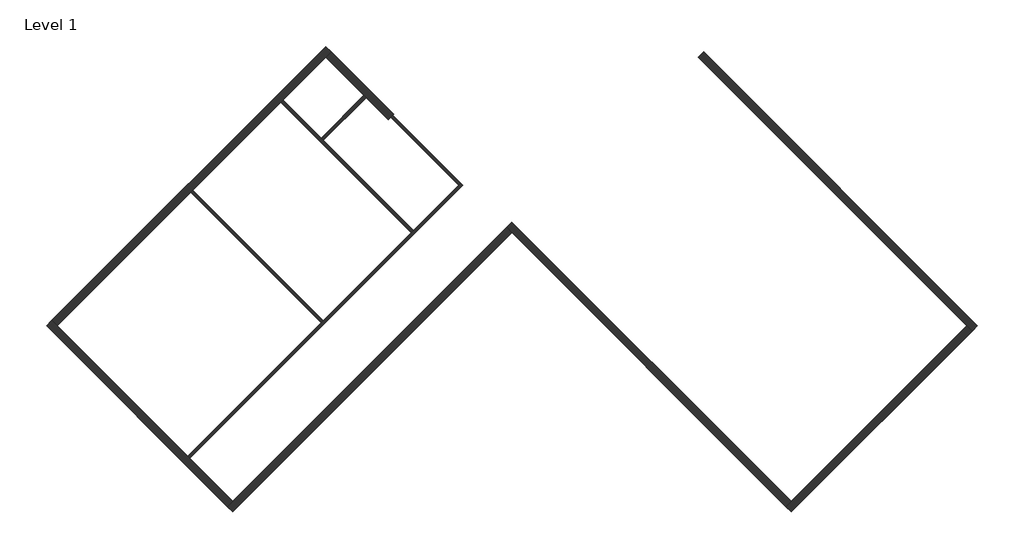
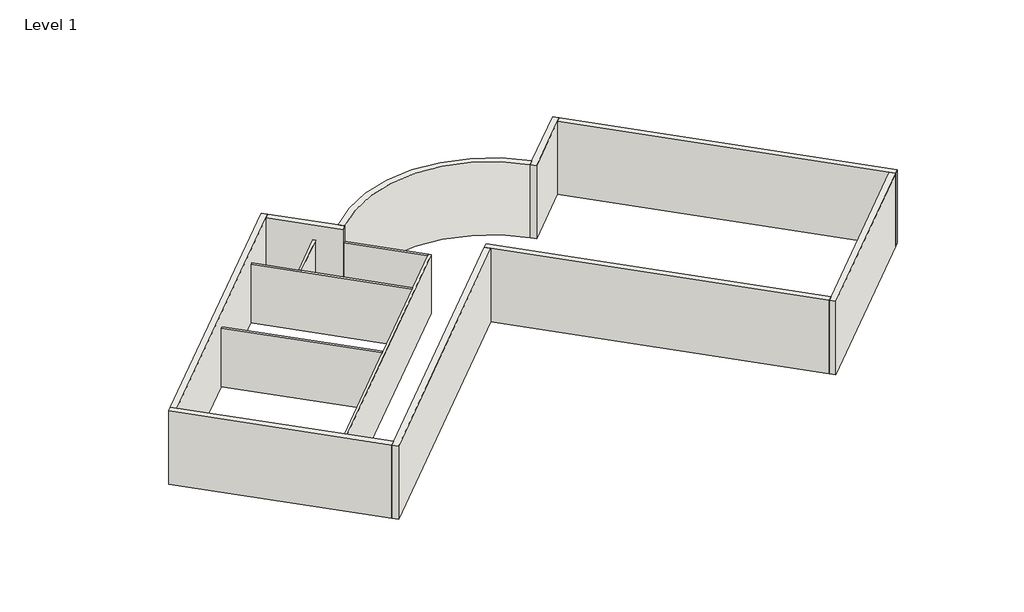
# One storey: 14 walls.
"""IFC4 building model written with IfcOpenShell, lengths in millimetres."""

import ifcopenshell
import ifcopenshell.guid

model = None  # the IFC model being written
_history = None  # IfcOwnerHistory: only IFC2X3 demands one
_inside = {}  # id of a spatial element -> (the spatial element, [elements in it])
_under = {}  # id of a project, library or spatial element -> (it, [spatial elements below it])
_declared = {}  # id of a project -> (the project, [libraries it declares])
_typed = {}  # id of a type object -> (the type object, [elements of that type])
_made_of = {}  # id of a material, layer set ... -> (it, [elements and type objects made of it])


def new_model(schema):
    """Start an empty IFC model of exactly this schema.

    Asked for "IFC4X3", IfcOpenShell would pick the latest addendum, in which some entities
    have other attributes; the version numbers below select the first issue.
    IFC2X3 requires an IfcOwnerHistory on every rooted entity: one is made here for all.
    """
    global model, _history
    if schema == "IFC4X3":
        model = ifcopenshell.file(schema_version=(4, 3, 0, 0))
    else:
        model = ifcopenshell.file(schema=schema)
    _inside.clear()
    _under.clear()
    _declared.clear()
    _typed.clear()
    _made_of.clear()
    _history = None
    if model.schema == "IFC2X3":
        org = make("IfcOrganization", Name="unknown")
        user = make(
            "IfcPersonAndOrganization",
            ThePerson=make("IfcPerson", FamilyName="unknown"),
            TheOrganization=org,
        )
        app = make(
            "IfcApplication",
            ApplicationDeveloper=org,
            Version="unknown",
            ApplicationFullName="unknown",
            ApplicationIdentifier="unknown",
        )
        _history = make(
            "IfcOwnerHistory",
            OwningUser=user,
            OwningApplication=app,
            ChangeAction="ADDED",
            CreationDate=0,
        )
    return model


def make(cls, **values):
    """One entity of the class cls with the attributes given. An attribute that is None is left unset."""
    return model.create_entity(
        cls, **{name: value for name, value in values.items() if value is not None}
    )


def rooted(cls, **values):
    """An entity with a GlobalId (a new one), such as an element, a storey or a relation."""
    return make(cls, GlobalId=ifcopenshell.guid.new(), OwnerHistory=_history, **values)


def si_unit(unit_type, name, prefix=None):
    """IfcSIUnit, for example si_unit("LENGTHUNIT", "METRE", prefix="MILLI")."""
    return make("IfcSIUnit", UnitType=unit_type, Prefix=prefix, Name=name)


def assignment(units):
    """IfcUnitAssignment: the units of a project."""
    return None if units is None else make("IfcUnitAssignment", Units=units)


def point(xyz):
    """IfcCartesianPoint."""
    return None if xyz is None else make("IfcCartesianPoint", Coordinates=xyz)


def direction(xyz):
    """IfcDirection."""
    return None if xyz is None else make("IfcDirection", DirectionRatios=xyz)


def frame(location, z_axis=None, x_axis=None):
    """IfcAxis2Placement3D, a coordinate frame: its origin and axes. An axis left out is left unset."""
    return make(
        "IfcAxis2Placement3D",
        Location=point(location),
        Axis=direction(z_axis),
        RefDirection=direction(x_axis),
    )


def frame_2d(location, x_axis=None):
    """IfcAxis2Placement2D, a coordinate frame in the plane: its origin and x axis."""
    return make(
        "IfcAxis2Placement2D", Location=point(location), RefDirection=direction(x_axis)
    )


def origin():
    """The frame at (0, 0, 0) with its axes left unset."""
    return frame((0.0, 0.0, 0.0))


def origin_with_axes():
    """The frame at (0, 0, 0) with the z axis (0, 0, 1) and the x axis (1, 0, 0) written out."""
    return frame((0.0, 0.0, 0.0), z_axis=(0.0, 0.0, 1.0), x_axis=(1.0, 0.0, 0.0))


def place(relative_to, where):
    """IfcLocalPlacement: puts the frame where relative to a parent placement (None: the world)."""
    return make(
        "IfcLocalPlacement", PlacementRelTo=relative_to, RelativePlacement=where
    )


def context(
    kind, dimensions, precision=None, world=None, true_north=None, identifier=None
):
    """IfcGeometricRepresentationContext, for example the 3D "Model" context."""
    return make(
        "IfcGeometricRepresentationContext",
        ContextIdentifier=identifier,
        ContextType=kind,
        CoordinateSpaceDimension=dimensions,
        Precision=precision,
        WorldCoordinateSystem=world,
        TrueNorth=true_north,
    )


def project(units=None, contexts=None):
    """IfcProject with its units and contexts."""
    return rooted(
        "IfcProject",
        Name="project",
        RepresentationContexts=contexts,
        UnitsInContext=assignment(units),
    )


def spatial(cls, under=None, at=None, **own):
    """A site, building, storey or space (cls), placed at a placement, below another one or the project."""
    s = rooted(cls, ObjectPlacement=at, **own)
    if under is not None:
        _under.setdefault(under.id(), (under, []))[1].append(s)
    return s


def polyline(points):
    """IfcPolyline through the points."""
    return make("IfcPolyline", Points=[point(p) for p in points])


def circle_curve(where, radius):
    """IfcCircle in the frame where."""
    return make("IfcCircle", Position=where, Radius=radius)


def trimmed(basis, trim1, trim2, sense, master):
    """IfcTrimmedCurve: the piece of a basis curve between two trims."""
    return make(
        "IfcTrimmedCurve",
        BasisCurve=basis,
        Trim1=trim1,
        Trim2=trim2,
        SenseAgreement=sense,
        MasterRepresentation=master,
    )


def segment(curve, same_sense, transition):
    """IfcCompositeCurveSegment."""
    return make(
        "IfcCompositeCurveSegment",
        Transition=transition,
        SameSense=same_sense,
        ParentCurve=curve,
    )


def composite_curve(segments, self_intersect=None):
    """IfcCompositeCurve: segments joined end to end."""
    return make("IfcCompositeCurve", Segments=segments, SelfIntersect=self_intersect)


def outline(outer, holes=None, kind="AREA"):
    """IfcArbitraryClosedProfileDef: a profile drawn as a closed curve; with holes, ...WithVoids."""
    if holes is None:
        return make("IfcArbitraryClosedProfileDef", ProfileType=kind, OuterCurve=outer)
    return make(
        "IfcArbitraryProfileDefWithVoids",
        ProfileType=kind,
        OuterCurve=outer,
        InnerCurves=holes,
    )


def extrude(swept, where, along, depth):
    """IfcExtrudedAreaSolid: the profile swept, set in the frame where, extruded along a direction by depth."""
    return make(
        "IfcExtrudedAreaSolid",
        SweptArea=swept,
        Position=where,
        ExtrudedDirection=direction(along),
        Depth=depth,
    )


def faces_of(points, faces, orient=None, outer=None):
    """IfcFace entities. A face is a list of loops; a loop is a list of indices into points, from 0.

    orient and outer hold one flag for each loop. By default every Orientation is true, the
    first loop of a face is its IfcFaceOuterBound and the others are IfcFaceBound.
    """
    made = []
    for i, loops in enumerate(faces):
        bounds = []
        for j, loop in enumerate(loops):
            is_outer = j == 0 if outer is None else outer[i][j]
            bounds.append(
                make(
                    "IfcFaceOuterBound" if is_outer else "IfcFaceBound",
                    Bound=make("IfcPolyLoop", Polygon=[points[k] for k in loop]),
                    Orientation=True if orient is None else orient[i][j],
                )
            )
        made.append(make("IfcFace", Bounds=bounds))
    return made


def faceted_brep(points, faces, orient=None, outer=None, voids=None):
    """IfcFacetedBrep: a solid bounded by flat faces; with voids (closed shells), ...WithVoids."""
    shared = [point(p) for p in points]
    hull = make("IfcClosedShell", CfsFaces=faces_of(shared, faces, orient, outer))
    if voids is None:
        return make("IfcFacetedBrep", Outer=hull)
    return make(
        "IfcFacetedBrepWithVoids",
        Outer=hull,
        Voids=[
            make(cls, CfsFaces=faces_of(shared, fs, o, b)) for cls, fs, o, b in voids
        ],
    )


def shape(context_of_items, identifier, shape_type, items):
    """IfcShapeRepresentation: the items that make up one representation, for example the "Body"."""
    return make(
        "IfcShapeRepresentation",
        ContextOfItems=context_of_items,
        RepresentationIdentifier=identifier,
        RepresentationType=shape_type,
        Items=items,
    )


def made_of(thing, what):
    """Note that an element or type object is made of a material, layer set ...; save() writes the relation."""
    if what is not None:
        _made_of.setdefault(what.id(), (what, []))[1].append(thing)
    return thing


def element(
    cls,
    number,
    at=None,
    inside=None,
    cuts=None,
    type_object=None,
    material=None,
    context=None,
    identifier="Body",
    shape_type=None,
    held_by="IfcProductDefinitionShape",
    body=None,
    shapes=None,
    **own,
):
    """One element of the class cls, such as IfcWall. Its Tag is "e" and its number.

    at: its placement. inside: the storey or other place that contains it. cuts: it is an
    opening in that element (IfcRelVoidsElement). A single representation is given by context,
    identifier, shape_type and body (its items); several are given by shapes. held_by: the class
    of the entity that holds the representations. save() writes the other relations.
    """
    e = rooted(cls, Tag="e%d" % number, ObjectPlacement=at, **own)
    if body is not None:
        shapes = [shape(context, identifier, shape_type, body)]
    if shapes is not None:
        e.Representation = make(held_by, Representations=shapes)
    if inside is not None:
        _inside.setdefault(inside.id(), (inside, []))[1].append(e)
    if cuts is not None:
        rooted(
            "IfcRelVoidsElement", RelatingBuildingElement=cuts, RelatedOpeningElement=e
        )
    if type_object is not None:
        _typed.setdefault(type_object.id(), (type_object, []))[1].append(e)
    return made_of(e, material)


def aggregate(whole, parts):
    """IfcRelAggregates: a whole, such as a stair, and the parts it consists of."""
    return rooted("IfcRelAggregates", RelatingObject=whole, RelatedObjects=parts)


def save(model, path):
    """Write the relations noted so far, then the file.

    IfcRelAggregates (storeys below a building ...), IfcRelContainedInSpatialStructure (elements
    in a storey), IfcRelDefinesByType, IfcRelAssociatesMaterial and IfcRelDeclares: one each for
    every whole, place, type object, material and project.
    """
    for whole, parts in _under.values():
        aggregate(whole, parts)
    for where, things in _inside.values():
        rooted(
            "IfcRelContainedInSpatialStructure",
            RelatedElements=things,
            RelatingStructure=where,
        )
    for kind, things in _typed.values():
        rooted("IfcRelDefinesByType", RelatedObjects=things, RelatingType=kind)
    for what, things in _made_of.values():
        rooted("IfcRelAssociatesMaterial", RelatedObjects=things, RelatingMaterial=what)
    for by, libraries in _declared.values():
        rooted("IfcRelDeclares", RelatingContext=by, RelatedDefinitions=libraries)
    model.write(path)


def plane_surface(at):
    """IfcPlane: the flat surface through the origin of the frame at, square to its z axis."""
    return make("IfcPlane", Position=at)


def revolved_surface(curve, axis_point, axis_direction):
    """IfcSurfaceOfRevolution: the curve turned about the line through axis_point along axis_direction."""
    return make(
        "IfcSurfaceOfRevolution",
        SweptCurve=make("IfcArbitraryOpenProfileDef", ProfileType="CURVE", Curve=curve),
        AxisPosition=make("IfcAxis1Placement", Location=point(axis_point), Axis=direction(axis_direction)),
    )


def advanced_brep(points, edges, surfaces, faces):
    """IfcAdvancedBrep: a solid bounded by faces that lie on surfaces and meet in shared edges.

    An edge is (start, end): straight between two places in points (the first is 0);
    or (start, end, curve); or (start, end, curve, False) where it runs against its curve.
    A face is (place in surfaces, loops), or (place, loops, False) where it looks against
    its surface's normal. A loop lists edges by number (the first is 1), with a minus sign
    where the edge is run from its end to its start. The first loop is the outer one.
    """
    corners = [point(p) for p in points]
    vertices = [make("IfcVertexPoint", VertexGeometry=c) for c in corners]
    made = []
    for start, end, *more in edges:
        made.append(
            make(
                "IfcEdgeCurve",
                EdgeStart=vertices[start],
                EdgeEnd=vertices[end],
                EdgeGeometry=more[0] if more else make("IfcPolyline", Points=[corners[start], corners[end]]),
                SameSense=more[1] if len(more) > 1 else True,
            )
        )
    hull = []
    for where, loops, *sense in faces:
        bounds = []
        for j, loop in enumerate(loops):
            ring = [make("IfcOrientedEdge", EdgeElement=made[abs(k) - 1], Orientation=k > 0) for k in loop]
            bounds.append(
                make(
                    "IfcFaceOuterBound" if j == 0 else "IfcFaceBound",
                    Bound=make("IfcEdgeLoop", EdgeList=ring),
                    Orientation=True,
                )
            )
        hull.append(make("IfcAdvancedFace", Bounds=bounds, FaceSurface=surfaces[where], SameSense=sense[0] if sense else True))
    return make("IfcAdvancedBrep", Outer=make("IfcClosedShell", CfsFaces=hull))


model = new_model("IFC4")

# Units and contexts
model_context = context("Model", 3, world=origin())
ifc_project = project(units=[si_unit("LENGTHUNIT", "METRE", prefix="MILLI")], contexts=[model_context])

# Site, building, storey
site = spatial("IfcSite", under=ifc_project)
building = spatial("IfcBuilding", under=site)
storey = spatial("IfcBuildingStorey", under=building, Name="Level 1", Elevation=0.0)

# Walls
placement = place(None, origin())
element("IfcWall", 1, ObjectType="Exterior - Brick on Mtl. Stud", at=placement, inside=storey, context=model_context, shape_type="AdvancedBrep", body=[
    advanced_brep(
    [(-19005.025248, 7088.73177, 0.0), (-16105.9530225, 9987.8039956, 0.0), (-15858.4656491, 10235.291369, 0.0), (-15858.4656491, 10235.291369, 4572.0), (-16105.9530225, 9987.8039956, 4572.0), (-19005.025248, 7088.73177, 4572.0), (-19246.9213445, 7341.8104204, 0.0), (-19246.9213445, 7341.8104204, 4572.0), (-18999.4339711, 7589.2977938, 4572.0), (-16105.9530225, 10482.7787424, 4572.0), (-16105.9530225, 10482.7787424, 0.0), (-18999.4339711, 7589.2977938, 0.0)],
    [
        (0, 1),
        (1, 2),
        (2, 3),
        (3, 4),
        (4, 5),
        (5, 0),
        (6, 7),
        (7, 8),
        (8, 9),
        (9, 10),
        (10, 11),
        (11, 6),
        (0, 6, circle_curve(frame((-24726.9988987, 1861.7328662, 0.0), z_axis=(0.0, 0.0, 1.0), x_axis=(1.0, 0.0, 0.0)), 7750.0)),
        (10, 2),
        (3, 9),
        (7, 5, circle_curve(frame((-24726.9988987, 1861.7328662, 4572.0), z_axis=(0.0, 0.0, -1.0), x_axis=(1.0, 0.0, 0.0)), 7750.0)),
    ],
    [
        plane_surface(frame((-18875.6902844, 7218.0667337, 0.0), z_axis=(0.707106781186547, -0.707106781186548, 0.0), x_axis=(0.707106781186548, 0.707106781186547, 0.0))),
        plane_surface(frame((-19123.1776578, 7465.5541071, 0.0), z_axis=(-0.707106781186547, 0.707106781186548, 0.0), x_axis=(-0.707106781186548, -0.707106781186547, 0.0))),
        plane_surface(frame((-18877.0567062, 7216.7003119, 0.0), z_axis=(0.0, 0.0, -1.0000000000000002), x_axis=(-0.7071067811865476, 0.7071067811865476, 0.0))),
        plane_surface(frame((-15982.2093358, 10111.5476823, 4572.0), z_axis=(0.0, 0.0, 1.0000000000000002), x_axis=(-0.7071067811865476, 0.7071067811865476, 0.0))),
        plane_surface(frame((-16105.9530225, 10482.7787424, 0.0), z_axis=(0.7071067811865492, 0.7071067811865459, 0.0), x_axis=(-0.7071067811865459, 0.7071067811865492, 0.0))),
        revolved_surface(polyline([(-16976.9988987, 1861.7328662, 0.0), (-16976.9988987, 1861.7328662, 4572.0)]), (-24726.9988987, 1861.7328662, 0.0), (0.0, 0.0, -1.0)),
    ],
    [
        (0, [[1, 2, 3, 4, 5, 6]]),
        (1, [[7, 8, 9, 10, 11, 12]]),
        (2, [[-2, -1, 13, -12, -11, 14]]),
        (3, [[-5, -4, 15, -9, -8, 16]]),
        (4, [[-3, -14, -10, -15]]),
        (5, [[-6, -16, -7, -13]]),
    ],
),
])
element("IfcWall", 2, ObjectType="Exterior - Brick on Mtl. Stud", at=placement, inside=storey, context=model_context, shape_type="Brep", body=[
    faceted_brep([(-16105.9530225, 9987.8039956, 0.0), (-3669.358955, -2448.7900719, 0.0), (-3421.8715816, -2696.2774453, 0.0), (-3421.8715816, -2696.2774453, 4572.0), (-3669.358955, -2448.7900719, 4572.0), (-16105.9530225, 9987.8039956, 4572.0), (-15858.4656491, 10235.291369, 0.0), (-15858.4656491, 10235.291369, 4572.0), (-3174.3842082, -2448.7900719, 4572.0), (-3174.3842082, -2448.7900719, 0.0)], [[[0, 1, 2, 3, 4, 5]], [[6, 7, 8, 9]], [[2, 1, 0, 6, 9]], [[5, 4, 3, 8, 7]], [[0, 5, 7, 6]], [[3, 2, 9, 8]]]),
])
element("IfcWall", 3, ObjectType="Exterior - Brick on Mtl. Stud", at=placement, inside=storey, context=model_context, shape_type="Brep", body=[
    faceted_brep([(-3669.358955, -2448.7900719, 0.0), (-11795.4300844, -10574.8612013, 0.0), (-12042.9174578, -10822.3485747, 0.0), (-12042.9174578, -10822.3485747, 4572.0), (-11795.4300844, -10574.8612013, 4572.0), (-3669.358955, -2448.7900719, 4572.0), (-3421.8715816, -2696.2774453, 0.0), (-3421.8715816, -2696.2774453, 4572.0), (-11795.4300844, -11069.8359482, 4572.0), (-11795.4300844, -11069.8359482, 0.0)], [[[0, 1, 2, 3, 4, 5]], [[6, 7, 8, 9]], [[2, 1, 0, 6, 9]], [[5, 4, 3, 8, 7]], [[0, 5, 7, 6]], [[3, 2, 9, 8]]]),
])
element("IfcWall", 4, ObjectType="Exterior - Brick on Mtl. Stud", at=placement, inside=storey, context=model_context, shape_type="Brep", body=[
    faceted_brep([(-11795.4300844, -10574.8612013, 0.0), (-24726.9988987, 2356.707613, 0.0), (-24726.9988987, 2356.707613, 4572.0), (-11795.4300844, -10574.8612013, 4572.0), (-12042.9174578, -10822.3485747, 0.0), (-12042.9174578, -10822.3485747, 4572.0), (-24726.9988987, 1861.7328662, 4572.0), (-24974.4862721, 2109.2202396, 4572.0), (-24974.4862721, 2109.2202396, 0.0), (-24726.9988987, 1861.7328662, 0.0)], [[[0, 1, 2, 3]], [[4, 5, 6, 7, 8, 9]], [[1, 0, 4, 9, 8]], [[3, 2, 7, 6, 5]], [[0, 3, 5, 4]], [[2, 1, 8, 7]]]),
])
element("IfcWall", 5, ObjectType="Exterior - Brick on Mtl. Stud", at=placement, inside=storey, context=model_context, shape_type="Brep", body=[
    faceted_brep([(-24974.4862721, 2109.2202396, 0.0), (-37658.5677131, -10574.8612013, 0.0), (-37906.0550865, -10822.3485747, 0.0), (-37906.0550865, -10822.3485747, 4572.0), (-37658.5677131, -10574.8612013, 4572.0), (-24974.4862721, 2109.2202396, 4572.0), (-24726.9988987, 1861.7328662, 0.0), (-24726.9988987, 1861.7328662, 4572.0), (-37658.5677131, -11069.8359482, 4572.0), (-37658.5677131, -11069.8359482, 0.0)], [[[0, 1, 2, 3, 4, 5]], [[6, 7, 8, 9]], [[2, 1, 0, 6, 9]], [[5, 4, 3, 8, 7]], [[0, 5, 7, 6]], [[3, 2, 9, 8]]]),
])
element("IfcWall", 6, ObjectType="Exterior - Brick on Mtl. Stud", at=placement, inside=storey, context=model_context, shape_type="Brep", body=[
    faceted_brep([(-37658.5677131, -10574.8612013, 0.0), (-39641.1183508, -8592.3105636, 0.0), (-39739.05264, -8494.3762744, 0.0), (-45784.6388425, -2448.7900719, 0.0), (-46032.1262159, -2201.3026985, 0.0), (-46032.1262159, -2201.3026985, 4572.0), (-45784.6388425, -2448.7900719, 4572.0), (-37658.5677131, -10574.8612013, 4572.0), (-37906.0550865, -10822.3485747, 0.0), (-37906.0550865, -10822.3485747, 4572.0), (-46279.6135893, -2448.7900719, 4572.0), (-46279.6135893, -2448.7900719, 0.0)], [[[0, 1, 2, 3, 4, 5, 6, 7]], [[8, 9, 10, 11]], [[4, 3, 2, 1, 0, 8, 11]], [[7, 6, 5, 10, 9]], [[0, 7, 9, 8]], [[5, 4, 11, 10]]]),
])
element("IfcWall", 7, ObjectType="Exterior - Brick on Mtl. Stud", at=placement, inside=storey, context=model_context, shape_type="Brep", body=[
    faceted_brep([(-45784.6388425, -2448.7900719, 0.0), (-39599.3990507, 3736.4497198, 0.0), (-39501.4647615, 3834.384009, 0.0), (-35428.5297019, 7907.3190686, 0.0), (-35330.5954127, 8005.2533578, 0.0), (-33348.044775, 9987.8039956, 0.0), (-33100.5574015, 10235.291369, 0.0), (-33100.5574015, 10235.291369, 4572.0), (-33348.044775, 9987.8039956, 4572.0), (-45784.6388425, -2448.7900719, 4572.0), (-46032.1262159, -2201.3026985, 0.0), (-46032.1262159, -2201.3026985, 4572.0), (-33348.044775, 10482.7787424, 4572.0), (-33348.044775, 10482.7787424, 0.0)], [[[0, 1, 2, 3, 4, 5, 6, 7, 8, 9]], [[10, 11, 12, 13]], [[6, 5, 4, 3, 2, 1, 0, 10, 13]], [[9, 8, 7, 12, 11]], [[0, 9, 11, 10]], [[7, 6, 13, 12]]]),
])
element("IfcWall", 8, ObjectType="Exterior - Brick on Mtl. Stud", at=placement, inside=storey, context=model_context, shape_type="AdvancedBrep", body=[
    advanced_brep(
    [(-33348.044775, 9987.8039956, 0.0), (-31581.1617055, 8220.9209261, 0.0), (-31483.2274163, 8122.9866369, 0.0), (-30448.9725494, 7088.73177, 0.0), (-30448.9725494, 7088.73177, 4572.0), (-33348.044775, 9987.8039956, 4572.0), (-33100.5574015, 10235.291369, 0.0), (-33100.5574015, 10235.291369, 4572.0), (-30454.5638263, 7589.2977938, 4572.0), (-30207.0764529, 7341.8104204, 4572.0), (-30207.0764529, 7341.8104204, 0.0), (-30454.5638263, 7589.2977938, 0.0), (-30249.8686921, 7298.6813016, 0.0), (-30346.154654, 7199.1094244, 0.0)],
    [
        (0, 1),
        (1, 2),
        (2, 3),
        (3, 4),
        (4, 5),
        (5, 0),
        (6, 7),
        (7, 8),
        (8, 9),
        (9, 10),
        (10, 11),
        (11, 6),
        (0, 6),
        (10, 12, circle_curve(frame((-24726.9988987, 1861.7328662, 0.0), z_axis=(0.0, 0.0, 1.0), x_axis=(1.0, 0.0, 0.0)), 7750.0)),
        (12, 13, circle_curve(frame((-24726.9988987, 1861.7328662, 0.0), z_axis=(0.0, 0.0, 1.0), x_axis=(1.0, 0.0, 0.0)), 7749.9999383)),
        (13, 3, circle_curve(frame((-24726.9988987, 1861.7328662, 0.0), z_axis=(0.0, 0.0, 1.0), x_axis=(1.0, 0.0, 0.0)), 7749.9999953)),
        (4, 9, circle_curve(frame((-24726.9988987, 1861.7328662, 4572.0), z_axis=(0.0, 0.0, -1.0), x_axis=(1.0, 0.0, 0.0)), 7750.0)),
        (7, 5),
    ],
    [
        plane_surface(frame((-33595.5321484, 10235.291369, 0.0), z_axis=(-0.7071067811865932, -0.7071067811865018, 0.0), x_axis=(0.7071067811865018, -0.7071067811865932, 0.0))),
        plane_surface(frame((-33348.044775, 10482.7787424, 0.0), z_axis=(0.7071067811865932, 0.7071067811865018, 0.0), x_axis=(-0.7071067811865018, 0.7071067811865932, 0.0))),
        plane_surface(frame((-33471.7884617, 10111.5476823, 0.0), z_axis=(0.0, 0.0, -1.0000000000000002), x_axis=(0.707106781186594, 0.7071067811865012, 0.0))),
        plane_surface(frame((-30576.9410912, 7216.7003119, 4572.0), z_axis=(0.0, 0.0, 1.0000000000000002), x_axis=(0.707106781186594, 0.7071067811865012, 0.0))),
        plane_surface(frame((-46032.1262159, -2696.2774453, 0.0), z_axis=(-0.7071067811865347, 0.7071067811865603, 0.0), x_axis=(0.7071067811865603, 0.7071067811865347, 0.0))),
        revolved_surface(polyline([(-16976.9988987, 1861.7328662, 0.0), (-16976.9988987, 1861.7328662, 4572.0)]), (-24726.9988987, 1861.7328662, 0.0), (0.0, 0.0, -1.0)),
    ],
    [
        (0, [[1, 2, 3, 4, 5, 6]]),
        (1, [[7, 8, 9, 10, 11, 12]]),
        (2, [[-3, -2, -1, 13, -12, -11, 14, 15, 16]]),
        (3, [[-5, 17, -9, -8, 18]]),
        (4, [[-6, -18, -7, -13]]),
        (5, [[-16, -15, -14, -10, -17, -4]]),
    ],
),
])
element("IfcWall", 9, ObjectType="Exterior - Brick on Mtl. Stud", at=placement, inside=storey, context=model_context, shape_type="SweptSolid", body=[
    extrude(outline(composite_curve([segment(polyline([(-18999.4339711, 7589.2977938), (-19246.9213445, 7341.8104204)]), True, "CONTINUOUS"), segment(trimmed(circle_curve(frame_2d((-24726.9988987, 1861.7328662)), 7750.0), [point((-19246.9213445, 7341.8104204))], [point((-30207.0764529, 7341.8104204))], True, "CARTESIAN"), True, "CONTINUOUS"), segment(polyline([(-30207.0764529, 7341.8104204), (-30454.5638263, 7589.2977938)]), True, "CONTINUOUS"), segment(trimmed(circle_curve(frame_2d((-24726.9988987, 1861.7328662)), 8100.0), [point((-30454.5638263, 7589.2977938))], [point((-18999.4339711, 7589.2977938))], False, "CARTESIAN"), True, "CONTINUOUS")], self_intersect=False)), origin_with_axes(), (0.0, 0.0, 1.0), 4572.0),
])
element("IfcWall", 10, ObjectType="Interior - 138mm Partition (1-hr)", at=placement, inside=storey, context=model_context, shape_type="Brep", body=[
    faceted_brep([(-39641.1183508, -8592.3105636, 0.0), (-26999.9936468, 4048.8141404, 0.0), (-26999.9936468, 4048.8141404, 3658.0), (-39641.1183508, -8592.3105636, 3658.0), (-39739.05264, -8494.3762744, 0.0), (-39739.05264, -8494.3762744, 3658.0), (-33553.8128483, -2309.1364826, 3658.0), (-33455.8785591, -2211.2021935, 3658.0), (-29382.9434994, 1861.7328662, 3658.0), (-29285.0092103, 1959.6671554, 3658.0), (-27195.8622252, 4048.8141404, 3658.0), (-27097.927936, 4146.7484296, 3658.0), (-27097.927936, 4146.7484296, 0.0), (-27195.8622252, 4048.8141404, 0.0), (-29285.0092103, 1959.6671554, 0.0), (-29382.9434994, 1861.7328662, 0.0), (-33455.8785591, -2211.2021935, 0.0), (-33553.8128483, -2309.1364826, 0.0)], [[[0, 1, 2, 3]], [[4, 5, 6, 7, 8, 9, 10, 11, 12, 13, 14, 15, 16, 17]], [[1, 0, 4, 17, 16, 15, 14, 13, 12]], [[3, 2, 11, 10, 9, 8, 7, 6, 5]], [[0, 3, 5, 4]], [[2, 1, 12, 11]]]),
])
element("IfcWall", 11, ObjectType="Interior - 138mm Partition (1-hr)", at=placement, inside=storey, context=model_context, shape_type="SweptSolid", body=[
    extrude(outline(composite_curve([segment(polyline([(-30249.8648246, 7298.6853181), (-27097.927936, 4146.7484296), (-27195.8622252, 4048.8141404), (-30346.1560483, 7199.1079634)]), True, "CONTINUOUS"), segment(trimmed(circle_curve(frame_2d((-24726.9988987, 1861.7328662)), 7750.0), [point((-30346.1560483, 7199.1079634))], [point((-30249.8648246, 7298.6853181))], False, "CARTESIAN"), True, "CONTINUOUS")], self_intersect=False)), origin_with_axes(), (0.0, 0.0, 1.0), 3658.0),
])
element("IfcWall", 12, ObjectType="Interior - 138mm Partition (1-hr)", at=placement, inside=storey, context=model_context, shape_type="Brep", body=[
    faceted_brep([(-29285.0092103, 1959.6671554, 0.0), (-33465.778054, 6140.4359991, 0.0), (-33563.7123432, 6238.3702883, 0.0), (-35330.5954127, 8005.2533578, 0.0), (-35330.5954127, 8005.2533578, 3658.0), (-33563.7123432, 6238.3702883, 3658.0), (-33465.778054, 6140.4359991, 3658.0), (-29285.0092103, 1959.6671554, 3658.0), (-29382.9434994, 1861.7328662, 0.0), (-29382.9434994, 1861.7328662, 3658.0), (-35428.5297019, 7907.3190686, 3658.0), (-35428.5297019, 7907.3190686, 0.0)], [[[0, 1, 2, 3, 4, 5, 6, 7]], [[8, 9, 10, 11]], [[3, 2, 1, 0, 8, 11]], [[7, 6, 5, 4, 10, 9]], [[4, 3, 11, 10]], [[0, 7, 9, 8]]]),
])
element("IfcWall", 13, ObjectType="Interior - 138mm Partition (1-hr)", at=placement, inside=storey, context=model_context, shape_type="SweptSolid", body=[
    extrude(outline(polyline([(-31483.2274163, 8122.9866369), (-33465.778054, 6140.4359991), (-33563.7123432, 6238.3702883), (-31581.1617055, 8220.9209261), (-31483.2274163, 8122.9866369)])), origin_with_axes(), (0.0, 0.0, 1.0), 3658.0),
])
element("IfcWall", 14, ObjectType="Interior - 138mm Partition (1-hr)", at=placement, inside=storey, context=model_context, shape_type="SweptSolid", body=[
    extrude(outline(polyline([(-39501.4647615, 3834.384009), (-33455.8785591, -2211.2021935), (-33553.8128483, -2309.1364826), (-39599.3990507, 3736.4497198), (-39501.4647615, 3834.384009)])), origin_with_axes(), (0.0, 0.0, 1.0), 3658.0),
])

save(model, "model.ifc")
